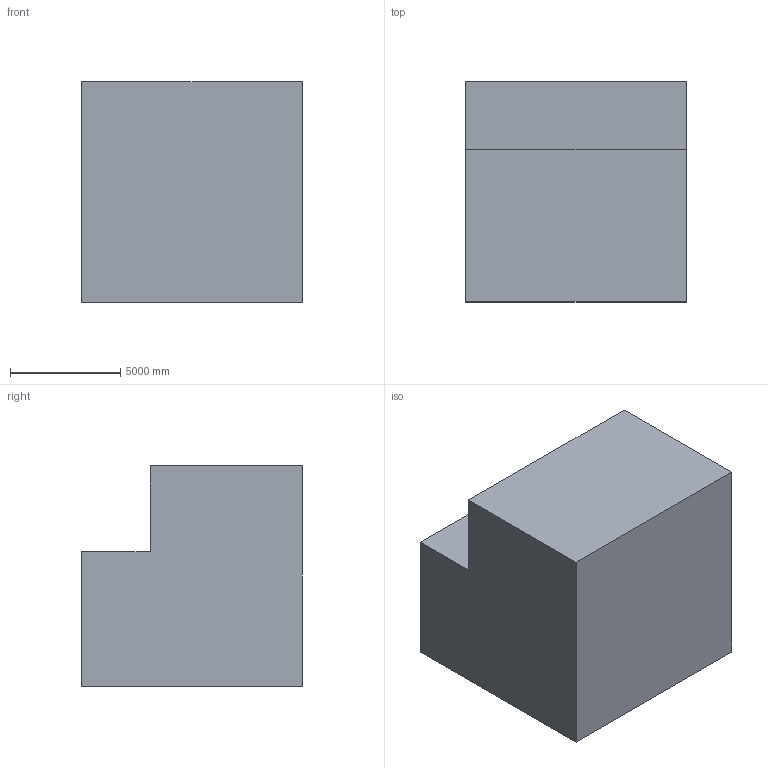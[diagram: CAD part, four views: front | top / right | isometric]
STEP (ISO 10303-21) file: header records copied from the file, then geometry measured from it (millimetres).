
FILE_DESCRIPTION (( 'STEP AP203' ), '1' );
FILE_NAME ('257.STEP', '2022-07-28T14:07:26', ( 'user' ), ( '' ), 'SwSTEP 2.0', 'SolidWorks 2021', '' );
FILE_SCHEMA (( 'CONFIG_CONTROL_DESIGN' ));
Length unit declared in the file: centimetre
Products named in the file (1): 257
Bounding box: 10000 x 10000 x 10000 mm (x, y, z)
Volume: 830912134991.1 mm3; surface area: 569812406.7 mm2
Topology: 1 solids, 1 shells, 13 faces, 33 edges, 22 vertices
Faces by surface type: plane 12, cylinder 1
Entity records: 467 total; most frequent: CARTESIAN_POINT 69, ORIENTED_EDGE 66, DIRECTION 64, EDGE_CURVE 33, LINE 30, VECTOR 30, VERTEX_POINT 22, AXIS2_PLACEMENT_3D 17
